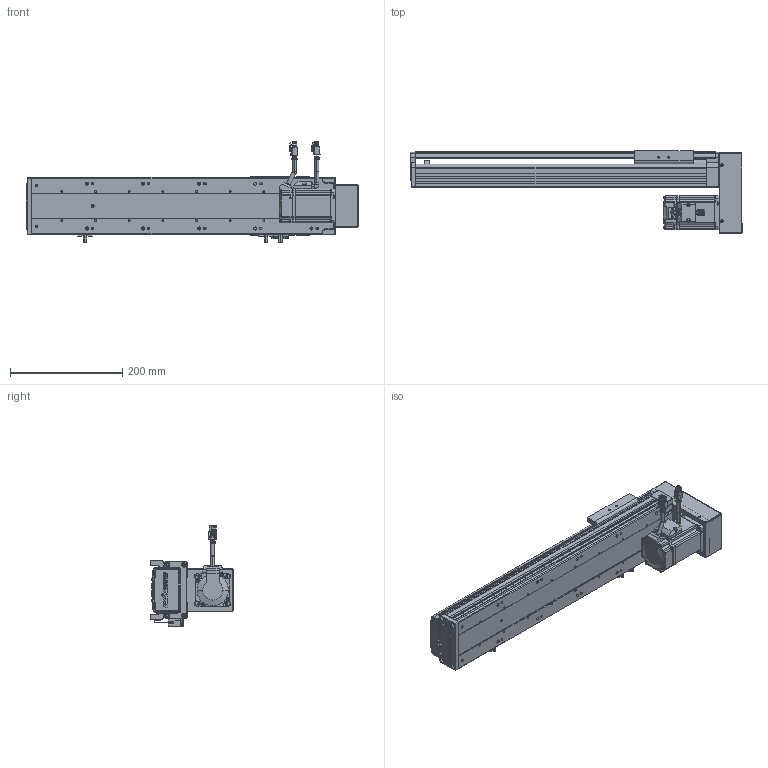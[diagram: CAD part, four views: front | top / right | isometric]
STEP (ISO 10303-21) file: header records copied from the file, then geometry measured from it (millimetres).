
FILE_DESCRIPTION (( 'STEP AP203' ), '1' );
FILE_NAME ('RY100S-L1620-300-BK(15双轨).SLDASM_350.step', '2021-02-20T08:22:56', ( '盈信电脑' ), ( '东莞市道滘镇水果街19号' ), 'SwSTEP 2.0', 'SolidWorks 2012', '' );
FILE_SCHEMA (( 'CONFIG_CONTROL_DESIGN' ));
Products named in the file (26): 5; 6; 4; 3; RY80肮祭湍覃踡啣; 1; 2; RY100S-絳寢EGH15-350-LK(腴郪15邧寢)_350; RY100S狟殏萇儂欶(15邧寢); 3M30喘15遵; RY80肮祭湍芢雄輸; RY100綴裔啣; RY100S转折电机端支撑座(15双轨); 滅袉蝶18-24; 覜茼ん672; RY100S铝滑块（15双轨单滑块）底组装导轨; 滅袉蝶18-10; RY100俋离覜茼え; RY100S-300-LK转折型材上盖(15双轨)_350; RY100S-350-LK型材底座(低组15双轨)_350; 肮祭湍5M遵15笚酗260; 侂狟200W萇儂; RY100S下折电机安装板（15双轨）; 7; RY100S-L1620-300-BK(15邧寢).SLDASM_350; RY100S-狟殏萇儂郪
Assembly tree (28 placements, depth 4):
  RY100S-L1620-300-BK(15邧寢).SLDASM_350
    RY100S-350-LK型材底座(低组15双轨)_350
    RY100S-300-LK转折型材上盖(15双轨)_350
    RY100S铝滑块（15双轨单滑块）底组装导轨
    覜茼ん672  x3
    滅袉蝶18-10
    RY100俋离覜茼え
    RY100S转折电机端支撑座(15双轨)
    滅袉蝶18-24
    RY100綴裔啣
    RY100S-絳寢EGH15-350-LK(腴郪15邧寢)_350
    RY100S-狟殏萇儂郪
      RY80肮祭湍芢雄輸  x2
      RY100S狟殏萇儂欶(15邧寢)
      3M30喘15遵
      RY80肮祭湍覃踡啣
      侂狟200W萇儂
        1
        2
        3
        4
        5
        6
        7
      肮祭湍5M遵15笚酗260
      RY100S下折电机安装板（15双轨）
Bounding box: 592 x 147 x 179.5 mm (x, y, z)
Volume: 1739129.2 mm3; surface area: 655513.9 mm2
Topology: 26 solids, 26 shells, 3194 faces, 8573 edges, 5524 vertices
Faces by surface type: plane 1698, cylinder 1213, cone 169, bspline 114
Entity records: 103463 total; most frequent: CARTESIAN_POINT 25448, ORIENTED_EDGE 15850, DIRECTION 15446, EDGE_CURVE 7925, AXIS2_PLACEMENT_3D 5258, VERTEX_POINT 5160, LINE 4930, VECTOR 4930
